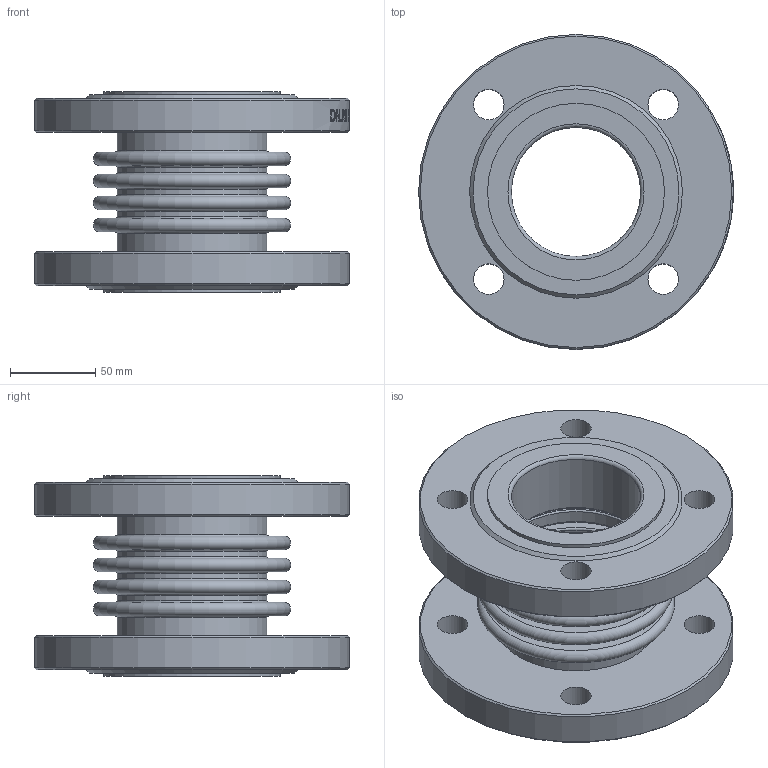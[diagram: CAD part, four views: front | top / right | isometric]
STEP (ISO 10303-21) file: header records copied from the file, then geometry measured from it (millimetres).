
FILE_DESCRIPTION(/* description */ ('D140-02139','CAx-IF Rec.Pracs.---Representation and Presentation of Product Manufacturing Information (PMI)---4.0---2014-10-13'),/* implementation_level */ '2;1');
FILE_NAME(/* name */ '',/* time_stamp */ '2026-04-14T18:50:26+03:00',/* author */ ('DN.RU'),/* organization */ ('DN.RU'),/* preprocessor_version */ 'ST-DEVELOPER v20',/* originating_system */ 'Autodesk Inventor 2025',/* authorisation */ '');
FILE_SCHEMA (('AP242_MANAGED_MODEL_BASED_3D_ENGINEERING_MIM_LF { 1 0 10303 442 1 1 4 }'));
Length unit declared in the file: millimetre
Products named in the file (1): CB-3232P-F
Bounding box: 185 x 185 x 118 mm (x, y, z)
Volume: 1011648.1 mm3; surface area: 242054.2 mm2
Topology: 1 solids, 1 shells, 284 faces, 717 edges, 478 vertices
Faces by surface type: plane 118, bspline 91, cylinder 43, torus 26, cone 6
Full cylindrical faces by diameter (mm): 18 x8, 76 x2, 84 x3, 88 x5, 94 x2, 104 x2, 185 x2
Entity records: 11799 total; most frequent: CARTESIAN_POINT 4640, ORIENTED_EDGE 1434, DIRECTION 1231, EDGE_CURVE 717, VERTEX_POINT 478, AXIS2_PLACEMENT_3D 470, STYLED_ITEM 357, EDGE_LOOP 345
